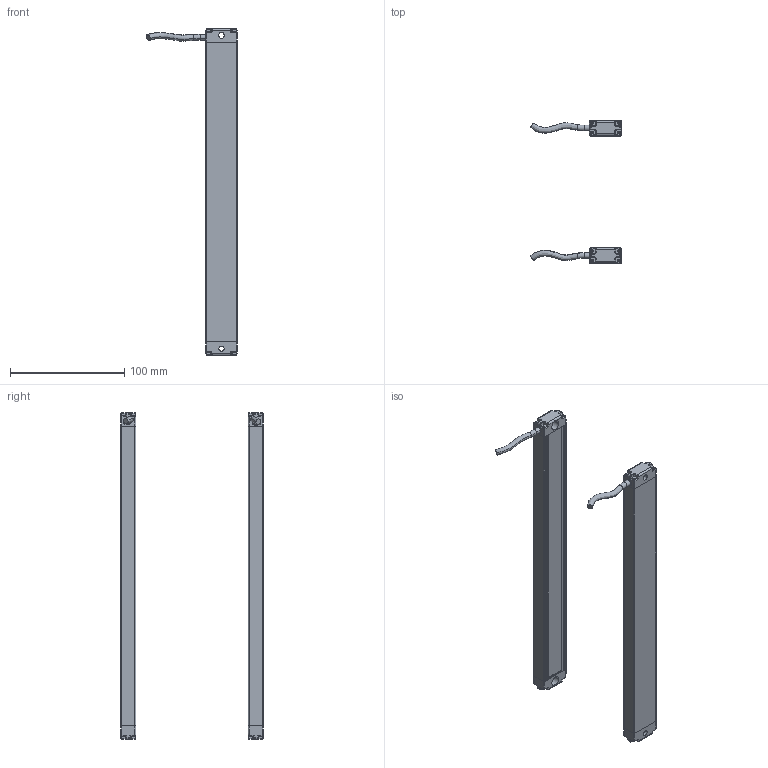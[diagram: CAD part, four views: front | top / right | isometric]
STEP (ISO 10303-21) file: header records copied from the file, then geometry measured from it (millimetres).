
FILE_DESCRIPTION(/* description */ (''),/* implementation_level */ '2;1');
FILE_NAME(/* name */ '2610.stp',/* time_stamp */ '2018-07-25T17:33:35+08:00',/* author */ (''),/* organization */ (''),/* preprocessor_version */ 'ST-DEVELOPER v16',/* originating_system */ 'SIEMENS PLM Software NX 10.0',/* authorisation */ '');
FILE_SCHEMA (('AP203_CONFIGURATION_CONTROLLED_3D_DESIGN_OF_MECHANICAL_PARTS_AND_ASSEMBLIES_MIM_LF { 1 0 10303 403 2 1 2}'));
Length unit declared in the file: millimetre
Products named in the file (1): Admi101826B0b3zq
Bounding box: 79.6 x 125.02 x 286 mm (x, y, z)
Volume: 86081.4 mm3; surface area: 113653.9 mm2
Topology: 10 solids, 10 shells, 760 faces, 2150 edges, 1419 vertices
Faces by surface type: plane 356, cylinder 312, torus 52, bspline 40
Entity records: 28109 total; most frequent: CARTESIAN_POINT 8577, ORIENTED_EDGE 4300, DIRECTION 3783, EDGE_CURVE 2150, VERTEX_POINT 1419, AXIS2_PLACEMENT_3D 1285, LINE 1213, VECTOR 1213
